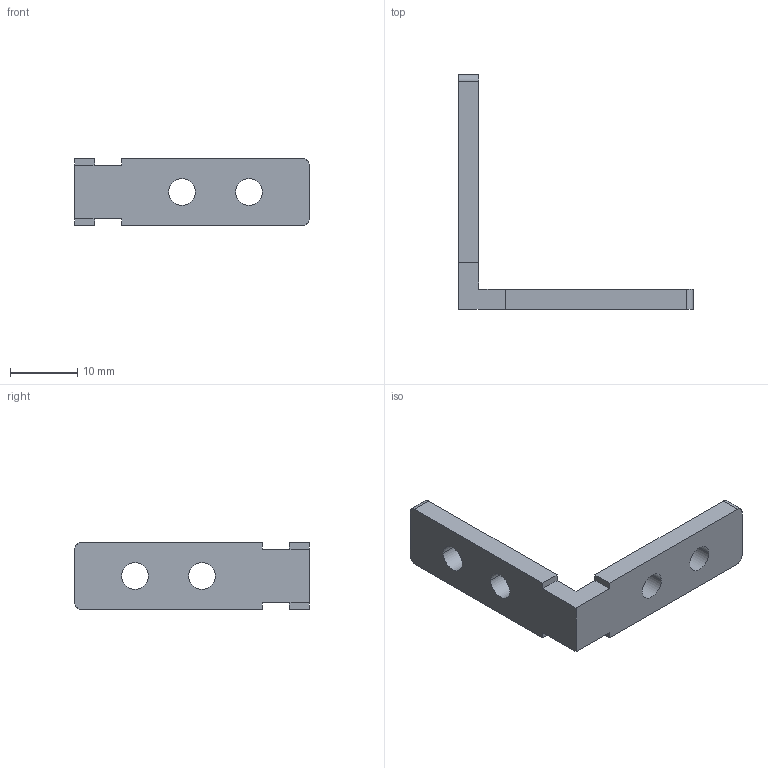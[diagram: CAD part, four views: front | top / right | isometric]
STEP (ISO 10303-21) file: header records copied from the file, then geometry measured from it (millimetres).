
FILE_DESCRIPTION (( 'STEP AP214' ), '1' );
FILE_NAME ('2107.STEP', '2018-10-22T05:28:06', ( '' ), ( '' ), 'SwSTEP 2.0', 'SolidWorks 2014', '' );
FILE_SCHEMA (( 'AUTOMOTIVE_DESIGN' ));
Length unit declared in the file: millimetre
Products named in the file (2): 2107
Bounding box: 35 x 35 x 10 mm (x, y, z)
Volume: 1790.6 mm3; surface area: 1813.4 mm2
Topology: 1 solids, 1 shells, 28 faces, 78 edges, 52 vertices
Faces by surface type: plane 16, cylinder 12
Entity records: 971 total; most frequent: DIRECTION 162, CARTESIAN_POINT 160, ORIENTED_EDGE 156, EDGE_CURVE 78, AXIS2_PLACEMENT_3D 54, VECTOR 54, LINE 54, VERTEX_POINT 52
